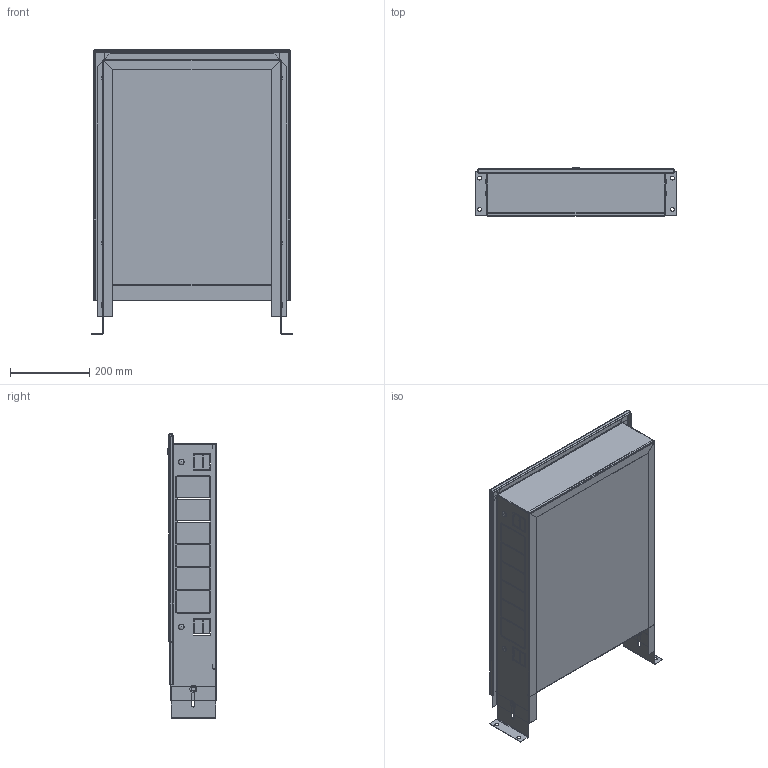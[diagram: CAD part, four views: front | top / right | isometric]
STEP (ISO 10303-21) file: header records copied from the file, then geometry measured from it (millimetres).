
FILE_DESCRIPTION(('TFLEX Exchange Step'),'2;1');
FILE_NAME('Manifold cabinet VTc.540.0.01 Valtec.stp', '2023-10-11T14:37:32+03:00',('denis'),('Unknown organisation'),'TFLEX Exchange 2023.0','T-FLEX CAD','Unknown authorisation');
FILE_SCHEMA( ('AUTOMOTIVE_DESIGN { 1 0 10303 214 1 1 1 1 }') );
Length unit declared in the file: millimetre
Products named in the file (1): Nodes
Bounding box: 510 x 124.1 x 719 mm (x, y, z)
Volume: 817964.7 mm3; surface area: 1953981.9 mm2
Topology: 14 solids, 15 shells, 784 faces, 2075 edges, 1345 vertices
Faces by surface type: plane 592, cylinder 127, cone 43, bspline 12, torus 6, sphere 4
Full cylindrical faces by diameter (mm): 6 x12, 6.4 x6, 7 x2, 10 x5, 12 x1, 14 x4, 16 x1, 18 x6, 20 x2
Entity records: 27234 total; most frequent: CARTESIAN_POINT 7580, ORIENTED_EDGE 4142, DIRECTION 3793, EDGE_CURVE 2071, VECTOR 1535, LINE 1535, VERTEX_POINT 1345, AXIS2_PLACEMENT_3D 1129
